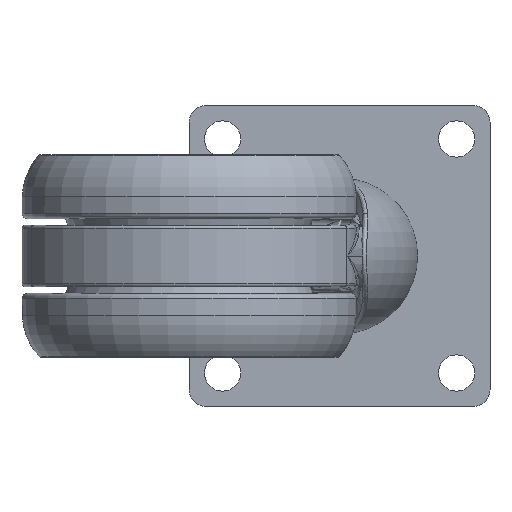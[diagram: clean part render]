
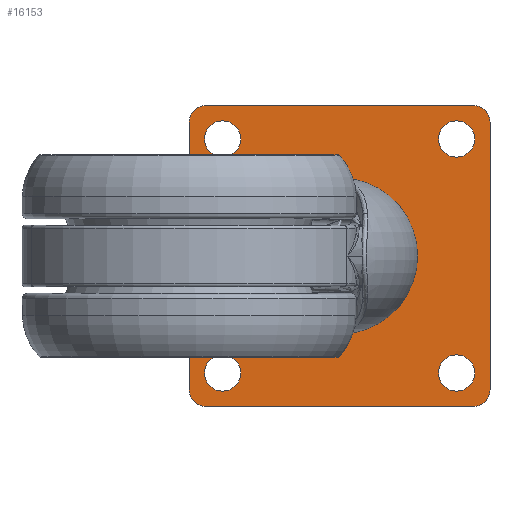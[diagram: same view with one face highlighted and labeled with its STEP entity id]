
A CAD part, front view. The second image highlights one B-rep face of the part: STEP entity #16153.
In plain terms, the highlighted planar face has unit normal (0, -1, 0).
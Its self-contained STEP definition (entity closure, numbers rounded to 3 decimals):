
#182 = CARTESIAN_POINT ( 'NONE',  ( 2.75, 48.5, 21. ) ) ;
#228 = CIRCLE ( 'NONE', #20015, 3. ) ;
#524 = CARTESIAN_POINT ( 'NONE',  ( 54., 48.5, 0. ) ) ;
#604 = AXIS2_PLACEMENT_3D ( 'NONE', #14469, #12640, #20074 ) ;
#904 = FACE_BOUND ( 'NONE', #7089, .T. ) ;
#941 = VERTEX_POINT ( 'NONE', #8316 ) ;
#1022 = EDGE_LOOP ( 'NONE', ( #1507 ) ) ;
#1104 = ORIENTED_EDGE ( 'NONE', *, *, #14613, .T. ) ;
#1268 = FACE_BOUND ( 'NONE', #5710, .T. ) ;
#1507 = ORIENTED_EDGE ( 'NONE', *, *, #18916, .T. ) ;
#1766 = VERTEX_POINT ( 'NONE', #17114 ) ;
#1905 = VECTOR ( 'NONE', #3005, 1000. ) ;
#1920 = VERTEX_POINT ( 'NONE', #2529 ) ;
#1968 = AXIS2_PLACEMENT_3D ( 'NONE', #15712, #12045, #6471 ) ;
#2025 = ORIENTED_EDGE ( 'NONE', *, *, #7944, .T. ) ;
#2234 = CARTESIAN_POINT ( 'NONE',  ( 54., 48.5, 24. ) ) ;
#2314 = EDGE_CURVE ( 'NONE', #1766, #11797, #17666, .T. ) ;
#2377 = VERTEX_POINT ( 'NONE', #22167 ) ;
#2428 = DIRECTION ( 'NONE',  ( -1., 0., 0. ) ) ;
#2434 = CIRCLE ( 'NONE', #10944, 3. ) ;
#2459 = ORIENTED_EDGE ( 'NONE', *, *, #5241, .F. ) ;
#2529 = CARTESIAN_POINT ( 'NONE',  ( 54., 48.5, -24. ) ) ;
#3005 = DIRECTION ( 'NONE',  ( -1., 0., 0. ) ) ;
#3010 = CIRCLE ( 'NONE', #16184, 3.25 ) ;
#3085 = FACE_BOUND ( 'NONE', #16836, .T. ) ;
#3440 = CIRCLE ( 'NONE', #22467, 14. ) ;
#3477 = VERTEX_POINT ( 'NONE', #5635 ) ;
#3645 = VECTOR ( 'NONE', #21437, 1000. ) ;
#3741 = ORIENTED_EDGE ( 'NONE', *, *, #5726, .T. ) ;
#4479 = CARTESIAN_POINT ( 'NONE',  ( 51., 48.5, -27. ) ) ;
#4509 = CARTESIAN_POINT ( 'NONE',  ( 6., 48.5, -21. ) ) ;
#4519 = DIRECTION ( 'NONE',  ( 0., -1., 0. ) ) ;
#4567 = LINE ( 'NONE', #21605, #1905 ) ;
#4637 = CARTESIAN_POINT ( 'NONE',  ( 51., 48.5, 24. ) ) ;
#5241 = EDGE_CURVE ( 'NONE', #19178, #18557, #22652, .T. ) ;
#5337 = EDGE_CURVE ( 'NONE', #23980, #11797, #2434, .T. ) ;
#5516 = CIRCLE ( 'NONE', #7434, 3. ) ;
#5635 = CARTESIAN_POINT ( 'NONE',  ( 44.75, 48.5, 21. ) ) ;
#5710 = EDGE_LOOP ( 'NONE', ( #3741 ) ) ;
#5726 = EDGE_CURVE ( 'NONE', #14194, #14194, #3440, .T. ) ;
#5852 = ORIENTED_EDGE ( 'NONE', *, *, #5337, .T. ) ;
#5973 = DIRECTION ( 'NONE',  ( 0., 0., 1. ) ) ;
#6413 = DIRECTION ( 'NONE',  ( -1., 0., 0. ) ) ;
#6471 = DIRECTION ( 'NONE',  ( -1., 0., 0. ) ) ;
#6557 = ORIENTED_EDGE ( 'NONE', *, *, #2314, .F. ) ;
#7045 = EDGE_CURVE ( 'NONE', #9340, #2377, #4567, .T. ) ;
#7089 = EDGE_LOOP ( 'NONE', ( #18621 ) ) ;
#7434 = AXIS2_PLACEMENT_3D ( 'NONE', #15092, #22529, #14620 ) ;
#7944 = EDGE_CURVE ( 'NONE', #18222, #18222, #20894, .T. ) ;
#8316 = CARTESIAN_POINT ( 'NONE',  ( 44.75, 48.5, -21. ) ) ;
#8376 = ORIENTED_EDGE ( 'NONE', *, *, #13702, .F. ) ;
#8647 = FACE_OUTER_BOUND ( 'NONE', #9854, .T. ) ;
#8825 = CARTESIAN_POINT ( 'NONE',  ( 13., 48.5, 0. ) ) ;
#9340 = VERTEX_POINT ( 'NONE', #4479 ) ;
#9410 = EDGE_CURVE ( 'NONE', #9340, #1920, #228, .T. ) ;
#9731 = LINE ( 'NONE', #524, #10128 ) ;
#9854 = EDGE_LOOP ( 'NONE', ( #2459, #10247, #10182, #20938, #8376, #5852, #6557, #12866 ) ) ;
#9866 = DIRECTION ( 'NONE',  ( 0., 1., 0. ) ) ;
#10044 = DIRECTION ( 'NONE',  ( 0., -1., 0. ) ) ;
#10128 = VECTOR ( 'NONE', #15342, 1000. ) ;
#10138 = EDGE_LOOP ( 'NONE', ( #2025 ) ) ;
#10182 = ORIENTED_EDGE ( 'NONE', *, *, #7045, .F. ) ;
#10247 = ORIENTED_EDGE ( 'NONE', *, *, #18380, .T. ) ;
#10944 = AXIS2_PLACEMENT_3D ( 'NONE', #4637, #4519, #11910 ) ;
#11051 = CIRCLE ( 'NONE', #604, 3.25 ) ;
#11449 = CARTESIAN_POINT ( 'NONE',  ( 48., 48.5, -21. ) ) ;
#11797 = VERTEX_POINT ( 'NONE', #23901 ) ;
#11900 = DIRECTION ( 'NONE',  ( 0., 1., 0. ) ) ;
#11910 = DIRECTION ( 'NONE',  ( -1., 0., 0. ) ) ;
#12001 = CARTESIAN_POINT ( 'NONE',  ( 27., 48.5, 0. ) ) ;
#12045 = DIRECTION ( 'NONE',  ( 0., 1., 0. ) ) ;
#12640 = DIRECTION ( 'NONE',  ( 0., 1., 0. ) ) ;
#12851 = DIRECTION ( 'NONE',  ( -1., 0., 0. ) ) ;
#12866 = ORIENTED_EDGE ( 'NONE', *, *, #22616, .T. ) ;
#13702 = EDGE_CURVE ( 'NONE', #23980, #1920, #9731, .T. ) ;
#14194 = VERTEX_POINT ( 'NONE', #8825 ) ;
#14419 = CARTESIAN_POINT ( 'NONE',  ( 0., 48.5, -24. ) ) ;
#14469 = CARTESIAN_POINT ( 'NONE',  ( 48., 48.5, 21. ) ) ;
#14613 = EDGE_CURVE ( 'NONE', #941, #941, #15121, .T. ) ;
#14620 = DIRECTION ( 'NONE',  ( -1., 0., 0. ) ) ;
#15092 = CARTESIAN_POINT ( 'NONE',  ( 3., 48.5, -24. ) ) ;
#15121 = CIRCLE ( 'NONE', #20559, 3.25 ) ;
#15342 = DIRECTION ( 'NONE',  ( 0., 0., -1. ) ) ;
#15712 = CARTESIAN_POINT ( 'NONE',  ( 41., 48.5, 0. ) ) ;
#16001 = DIRECTION ( 'NONE',  ( -1., 0., 0. ) ) ;
#16153 = ADVANCED_FACE ( 'NONE', ( #17917, #3085, #1268, #904, #23270, #8647 ), #23151, .F. ) ;
#16184 = AXIS2_PLACEMENT_3D ( 'NONE', #22243, #18710, #12851 ) ;
#16408 = VECTOR ( 'NONE', #5973, 1000. ) ;
#16625 = AXIS2_PLACEMENT_3D ( 'NONE', #4509, #11900, #23120 ) ;
#16836 = EDGE_LOOP ( 'NONE', ( #1104 ) ) ;
#17114 = CARTESIAN_POINT ( 'NONE',  ( 3., 48.5, 27. ) ) ;
#17405 = CARTESIAN_POINT ( 'NONE',  ( 0., 48.5, 24. ) ) ;
#17666 = LINE ( 'NONE', #19967, #3645 ) ;
#17917 = FACE_BOUND ( 'NONE', #1022, .T. ) ;
#18074 = CARTESIAN_POINT ( 'NONE',  ( 3., 48.5, 24. ) ) ;
#18222 = VERTEX_POINT ( 'NONE', #22006 ) ;
#18380 = EDGE_CURVE ( 'NONE', #19178, #2377, #5516, .T. ) ;
#18557 = VERTEX_POINT ( 'NONE', #17405 ) ;
#18621 = ORIENTED_EDGE ( 'NONE', *, *, #20528, .T. ) ;
#18710 = DIRECTION ( 'NONE',  ( 0., 1., 0. ) ) ;
#18916 = EDGE_CURVE ( 'NONE', #3477, #3477, #11051, .T. ) ;
#19178 = VERTEX_POINT ( 'NONE', #14419 ) ;
#19313 = CARTESIAN_POINT ( 'NONE',  ( 51., 48.5, -24. ) ) ;
#19924 = AXIS2_PLACEMENT_3D ( 'NONE', #18074, #21487, #16001 ) ;
#19967 = CARTESIAN_POINT ( 'NONE',  ( 41., 48.5, 27. ) ) ;
#20015 = AXIS2_PLACEMENT_3D ( 'NONE', #19313, #10044, #6413 ) ;
#20074 = DIRECTION ( 'NONE',  ( -1., 0., 0. ) ) ;
#20528 = EDGE_CURVE ( 'NONE', #24020, #24020, #3010, .T. ) ;
#20559 = AXIS2_PLACEMENT_3D ( 'NONE', #11449, #9866, #20599 ) ;
#20599 = DIRECTION ( 'NONE',  ( -1., 0., 0. ) ) ;
#20695 = CARTESIAN_POINT ( 'NONE',  ( 0., 48.5, 0. ) ) ;
#20894 = CIRCLE ( 'NONE', #16625, 3.25 ) ;
#20938 = ORIENTED_EDGE ( 'NONE', *, *, #9410, .T. ) ;
#21086 = CIRCLE ( 'NONE', #19924, 3. ) ;
#21437 = DIRECTION ( 'NONE',  ( 1., 0., 0. ) ) ;
#21487 = DIRECTION ( 'NONE',  ( 0., -1., 0. ) ) ;
#21605 = CARTESIAN_POINT ( 'NONE',  ( 41., 48.5, -27. ) ) ;
#22006 = CARTESIAN_POINT ( 'NONE',  ( 2.75, 48.5, -21. ) ) ;
#22167 = CARTESIAN_POINT ( 'NONE',  ( 3., 48.5, -27. ) ) ;
#22243 = CARTESIAN_POINT ( 'NONE',  ( 6., 48.5, 21. ) ) ;
#22467 = AXIS2_PLACEMENT_3D ( 'NONE', #12001, #22984, #2428 ) ;
#22529 = DIRECTION ( 'NONE',  ( 0., -1., 0. ) ) ;
#22616 = EDGE_CURVE ( 'NONE', #1766, #18557, #21086, .T. ) ;
#22652 = LINE ( 'NONE', #20695, #16408 ) ;
#22984 = DIRECTION ( 'NONE',  ( 0., 1., 0. ) ) ;
#23120 = DIRECTION ( 'NONE',  ( -1., 0., 0. ) ) ;
#23151 = PLANE ( 'NONE',  #1968 ) ;
#23270 = FACE_BOUND ( 'NONE', #10138, .T. ) ;
#23901 = CARTESIAN_POINT ( 'NONE',  ( 51., 48.5, 27. ) ) ;
#23980 = VERTEX_POINT ( 'NONE', #2234 ) ;
#24020 = VERTEX_POINT ( 'NONE', #182 ) ;
